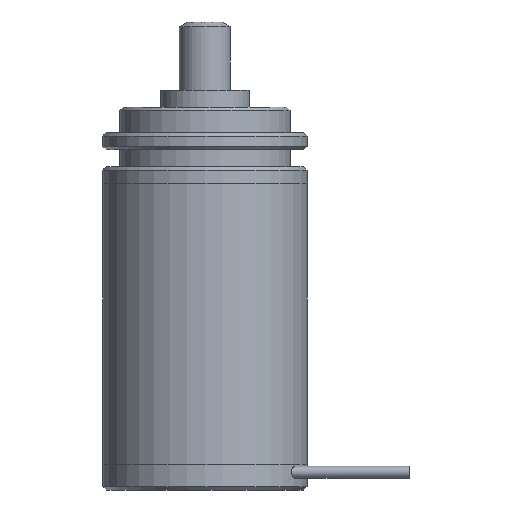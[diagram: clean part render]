
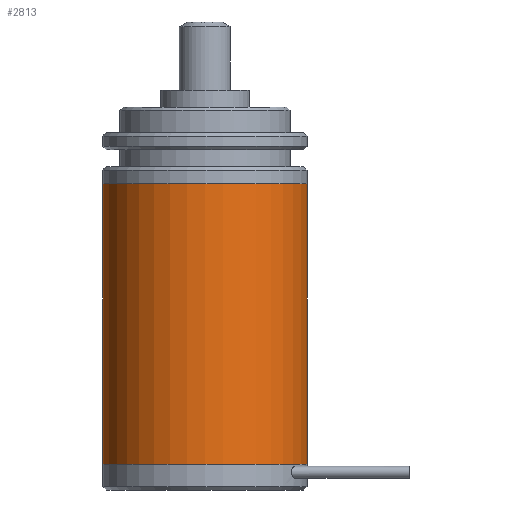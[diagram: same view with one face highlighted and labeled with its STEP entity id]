
A CAD part, left-side view. The second image highlights one B-rep face of the part: STEP entity #2813.
In plain terms, the highlighted cylindrical face has radius 6 mm (diameter 12 mm), a partial arc.
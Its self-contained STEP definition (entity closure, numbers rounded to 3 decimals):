
#190 = CARTESIAN_POINT ( 'NONE',  ( 0., -6., -26. ) ) ;
#302 = DIRECTION ( 'NONE',  ( 0., 1., 0. ) ) ;
#335 = DIRECTION ( 'NONE',  ( 0., 0., 1. ) ) ;
#341 = VECTOR ( 'NONE', #4159, 1000. ) ;
#607 = VERTEX_POINT ( 'NONE', #190 ) ;
#675 = EDGE_CURVE ( 'NONE', #2333, #1551, #3065, .T. ) ;
#760 = CARTESIAN_POINT ( 'NONE',  ( 0., 6., -26. ) ) ;
#783 = AXIS2_PLACEMENT_3D ( 'NONE', #4378, #335, #1031 ) ;
#881 = ORIENTED_EDGE ( 'NONE', *, *, #675, .F. ) ;
#994 = AXIS2_PLACEMENT_3D ( 'NONE', #3400, #1375, #3732 ) ;
#1031 = DIRECTION ( 'NONE',  ( 0., -1., 0. ) ) ;
#1164 = AXIS2_PLACEMENT_3D ( 'NONE', #4345, #2356, #302 ) ;
#1222 = CARTESIAN_POINT ( 'NONE',  ( 0., 6., -9.5 ) ) ;
#1231 = CIRCLE ( 'NONE', #1164, 6. ) ;
#1287 = LINE ( 'NONE', #3965, #2312 ) ;
#1375 = DIRECTION ( 'NONE',  ( 0., 0., -1. ) ) ;
#1551 = VERTEX_POINT ( 'NONE', #1222 ) ;
#1684 = ORIENTED_EDGE ( 'NONE', *, *, #4175, .T. ) ;
#1820 = CARTESIAN_POINT ( 'NONE',  ( 0., 6., -26. ) ) ;
#1983 = CIRCLE ( 'NONE', #994, 6. ) ;
#2196 = FACE_OUTER_BOUND ( 'NONE', #2947, .T. ) ;
#2312 = VECTOR ( 'NONE', #4286, 1000. ) ;
#2317 = ORIENTED_EDGE ( 'NONE', *, *, #3125, .T. ) ;
#2333 = VERTEX_POINT ( 'NONE', #760 ) ;
#2338 = CARTESIAN_POINT ( 'NONE',  ( 0., -6., -9.5 ) ) ;
#2356 = DIRECTION ( 'NONE',  ( 0., 0., -1. ) ) ;
#2813 = ADVANCED_FACE ( 'NONE', ( #2196 ), #3867, .T. ) ;
#2947 = EDGE_LOOP ( 'NONE', ( #881, #3606, #1684, #2317 ) ) ;
#3065 = LINE ( 'NONE', #1820, #341 ) ;
#3125 = EDGE_CURVE ( 'NONE', #3540, #1551, #1231, .T. ) ;
#3400 = CARTESIAN_POINT ( 'NONE',  ( 0., 0., -26. ) ) ;
#3540 = VERTEX_POINT ( 'NONE', #2338 ) ;
#3606 = ORIENTED_EDGE ( 'NONE', *, *, #3652, .F. ) ;
#3652 = EDGE_CURVE ( 'NONE', #607, #2333, #1983, .T. ) ;
#3732 = DIRECTION ( 'NONE',  ( 0., 1., 0. ) ) ;
#3867 = CYLINDRICAL_SURFACE ( 'NONE', #783, 6. ) ;
#3965 = CARTESIAN_POINT ( 'NONE',  ( 0., -6., -26. ) ) ;
#4159 = DIRECTION ( 'NONE',  ( 0., 0., 1. ) ) ;
#4175 = EDGE_CURVE ( 'NONE', #607, #3540, #1287, .T. ) ;
#4286 = DIRECTION ( 'NONE',  ( 0., 0., 1. ) ) ;
#4345 = CARTESIAN_POINT ( 'NONE',  ( 0., 0., -9.5 ) ) ;
#4378 = CARTESIAN_POINT ( 'NONE',  ( 0., 0., -26. ) ) ;
